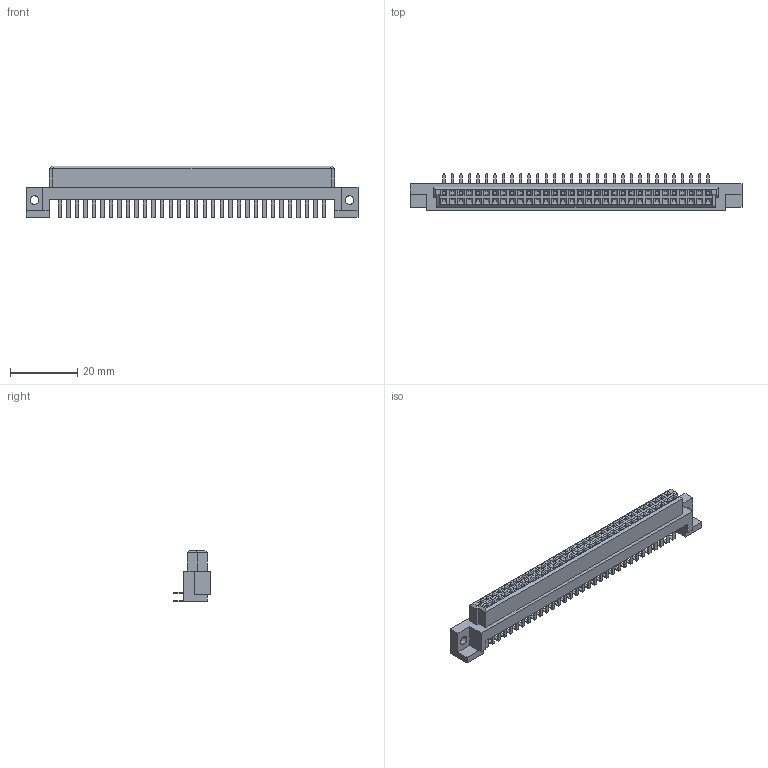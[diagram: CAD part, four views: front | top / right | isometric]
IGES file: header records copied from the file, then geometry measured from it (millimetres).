
Start section: Elysium IGES Interface
Global section: file name: C:\Users\yuya_yoshihara\Desktop\IGES\PCN13-64S-2.54DS.igs; native system: Creo Elements/Direct Modeling 19.0F  14-Feb-2017; preprocessor: Creo Element/Direct IGES_3D V2.2; author: Unknown; organization: Unknown; date: 20190220.155326; units: millimetre
Bounding box: 98.98 x 11.2 x 15.35 mm (x, y, z)
Volume: 6038.5 mm3; surface area: 6977.4 mm2
Topology: 1 solids, 1 shells, 1449 faces, 3688 edges, 2370 vertices
Faces by surface type: bspline 1449
